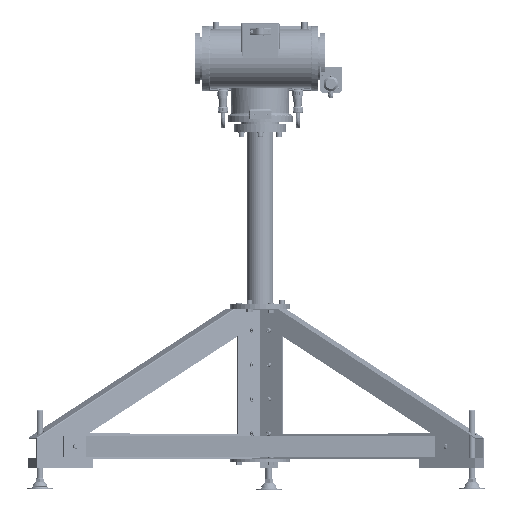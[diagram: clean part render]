
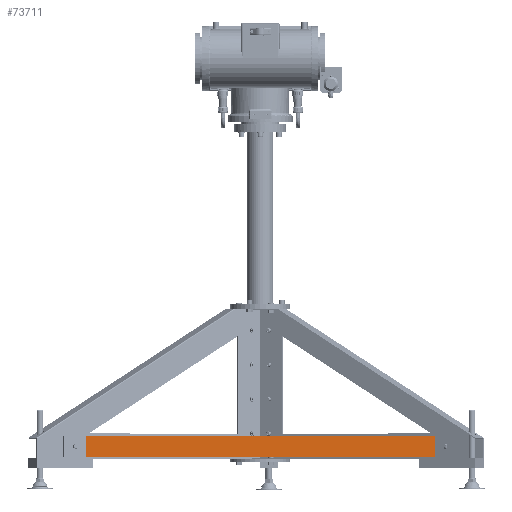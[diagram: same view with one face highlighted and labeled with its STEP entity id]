
A CAD part, top view. The second image highlights one B-rep face of the part: STEP entity #73711.
In plain terms, the highlighted planar face has unit normal (0, 0, 1).
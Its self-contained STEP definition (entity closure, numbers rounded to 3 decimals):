
#15860 = CARTESIAN_POINT ( 'NONE',  ( 405.266, -877., 239.292 ) ) ;
#16629 = VERTEX_POINT ( 'NONE', #15860 ) ;
#34674 = CARTESIAN_POINT ( 'NONE',  ( 405.266, -927., 239.292 ) ) ;
#49880 = VERTEX_POINT ( 'NONE', #34674 ) ;
#54876 = CARTESIAN_POINT ( 'NONE',  ( -405.502, -877., 239.292 ) ) ;
#64273 = CARTESIAN_POINT ( 'NONE',  ( 405.266, -927., 239.292 ) ) ;
#64276 = DIRECTION ( 'NONE',  ( -1., 0., 0. ) ) ;
#73711 = ADVANCED_FACE ( 'NONE', ( #165838 ), #103793, .F. ) ;
#79649 = CARTESIAN_POINT ( 'NONE',  ( -405.502, -927., 239.292 ) ) ;
#81623 = DIRECTION ( 'NONE',  ( 0., 1., 0. ) ) ;
#84778 = EDGE_CURVE ( 'NONE', #49880, #16629, #98978, .T. ) ;
#86601 = CARTESIAN_POINT ( 'NONE',  ( -405.502, -927., 239.292 ) ) ;
#91593 = VECTOR ( 'NONE', #81623, 1000. ) ;
#98978 = LINE ( 'NONE', #64273, #91593 ) ;
#103793 = PLANE ( 'NONE',  #138936 ) ;
#103932 = DIRECTION ( 'NONE',  ( 0., 1., 0. ) ) ;
#109375 = ORIENTED_EDGE ( 'NONE', *, *, #180648, .T. ) ;
#116313 = LINE ( 'NONE', #132644, #145294 ) ;
#124450 = DIRECTION ( 'NONE',  ( -1., 0., 0. ) ) ;
#126300 = VERTEX_POINT ( 'NONE', #54876 ) ;
#131056 = VECTOR ( 'NONE', #124450, 1000. ) ;
#132644 = CARTESIAN_POINT ( 'NONE',  ( 405.882, -927., 239.292 ) ) ;
#135351 = CARTESIAN_POINT ( 'NONE',  ( 405.882, -927., 239.292 ) ) ;
#138936 = AXIS2_PLACEMENT_3D ( 'NONE', #135351, #200525, #183165 ) ;
#139114 = VERTEX_POINT ( 'NONE', #79649 ) ;
#141824 = CARTESIAN_POINT ( 'NONE',  ( 405.882, -877., 239.292 ) ) ;
#143167 = ORIENTED_EDGE ( 'NONE', *, *, #158000, .F. ) ;
#145294 = VECTOR ( 'NONE', #64276, 1000. ) ;
#158000 = EDGE_CURVE ( 'NONE', #49880, #139114, #116313, .T. ) ;
#158395 = ORIENTED_EDGE ( 'NONE', *, *, #84778, .T. ) ;
#161439 = EDGE_LOOP ( 'NONE', ( #109375, #200515, #143167, #158395 ) ) ;
#165838 = FACE_OUTER_BOUND ( 'NONE', #161439, .T. ) ;
#165982 = LINE ( 'NONE', #86601, #200002 ) ;
#180648 = EDGE_CURVE ( 'NONE', #16629, #126300, #188531, .T. ) ;
#183165 = DIRECTION ( 'NONE',  ( 1., 0., 0. ) ) ;
#188531 = LINE ( 'NONE', #141824, #131056 ) ;
#200002 = VECTOR ( 'NONE', #103932, 1000. ) ;
#200515 = ORIENTED_EDGE ( 'NONE', *, *, #203916, .F. ) ;
#200525 = DIRECTION ( 'NONE',  ( 0., 0., -1. ) ) ;
#203916 = EDGE_CURVE ( 'NONE', #139114, #126300, #165982, .T. ) ;
